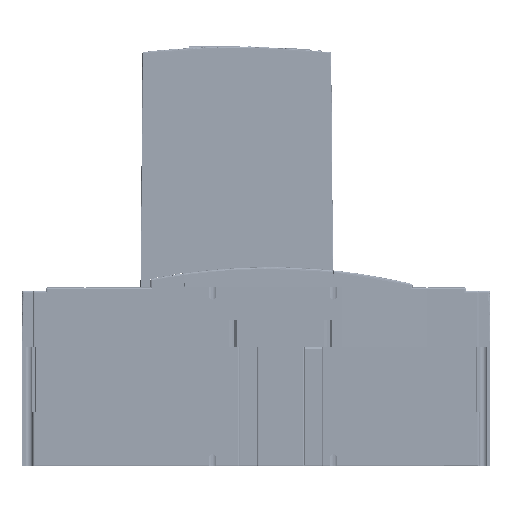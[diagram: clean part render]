
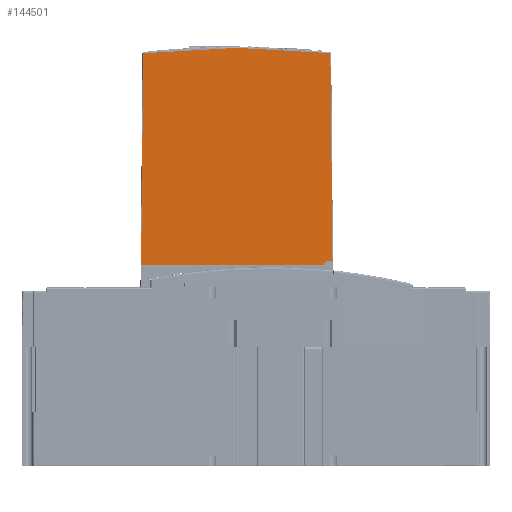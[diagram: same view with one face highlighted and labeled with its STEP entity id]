
A CAD part, left-side view. The second image highlights one B-rep face of the part: STEP entity #144501.
In plain terms, the highlighted planar face has unit normal (-1, 0, 0.009).
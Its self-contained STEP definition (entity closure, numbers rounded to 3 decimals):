
#107850 = CARTESIAN_POINT ( 'NONE',  ( -160.958, -74.545, 247.84 ) ) ;
#107897 = CARTESIAN_POINT ( 'NONE',  ( -160.931, -19.843, 250.92 ) ) ;
#107903 = CARTESIAN_POINT ( 'NONE',  ( -160.931, -38.125, 250.92 ) ) ;
#107909 = CARTESIAN_POINT ( 'NONE',  ( -160.94, -56.378, 249.892 ) ) ;
#107915 = CARTESIAN_POINT ( 'NONE',  ( -160.958, -74.545, 247.84 ) ) ;
#107959 =( BOUNDED_CURVE ( )  B_SPLINE_CURVE ( 3, ( #107915, #107909, #107903, #107897 ),
 .UNSPECIFIED., .F., .F. ) 
 B_SPLINE_CURVE_WITH_KNOTS ( ( 4, 4 ),
 ( 6.171, 6.283 ),
 .UNSPECIFIED. ) 
 CURVE ( )  GEOMETRIC_REPRESENTATION_ITEM ( )  RATIONAL_B_SPLINE_CURVE ( ( 1., 0.999, 0.999, 1. ) ) 
 REPRESENTATION_ITEM ( '' )  );
#108004 = CARTESIAN_POINT ( 'NONE',  ( -160.931, -19.843, 250.92 ) ) ;
#143001 = VERTEX_POINT ( 'NONE', #455351 ) ;
#143023 = EDGE_CURVE ( 'NONE', #143027, #143001, #455803, .T. ) ;
#143027 = VERTEX_POINT ( 'NONE', #455768 ) ;
#144501 = ADVANCED_FACE ( 'NONE', ( #467361 ), #467617, .T. ) ;
#144512 = EDGE_LOOP ( 'NONE', ( #144516, #144705, #144728, #144745, #144760, #144787 ) ) ;
#144516 = ORIENTED_EDGE ( 'NONE', *, *, #143023, .T. ) ;
#144705 = ORIENTED_EDGE ( 'NONE', *, *, #144709, .T. ) ;
#144709 = EDGE_CURVE ( 'NONE', #143001, #144716, #469373, .T. ) ;
#144716 = VERTEX_POINT ( 'NONE', #469377 ) ;
#144728 = ORIENTED_EDGE ( 'NONE', *, *, #144737, .T. ) ;
#144737 = EDGE_CURVE ( 'NONE', #144716, #598182, #469238, .T. ) ;
#144745 = ORIENTED_EDGE ( 'NONE', *, *, #598172, .T. ) ;
#144760 = ORIENTED_EDGE ( 'NONE', *, *, #144764, .T. ) ;
#144764 = EDGE_CURVE ( 'NONE', #598163, #144777, #469414, .T. ) ;
#144777 = VERTEX_POINT ( 'NONE', #469549 ) ;
#144787 = ORIENTED_EDGE ( 'NONE', *, *, #144789, .T. ) ;
#144789 = EDGE_CURVE ( 'NONE', #144777, #143027, #469799, .T. ) ;
#455351 = CARTESIAN_POINT ( 'NONE',  ( -162.046, -70.489, 123.146 ) ) ;
#455768 = CARTESIAN_POINT ( 'NONE',  ( -162.046, 36.647, 123.146 ) ) ;
#455793 = DIRECTION ( 'NONE',  ( 0., -1., 0. ) ) ;
#455795 = VECTOR ( 'NONE', #455793, 1000. ) ;
#455799 = CARTESIAN_POINT ( 'NONE',  ( -162.046, 36.947, 123.146 ) ) ;
#455803 = LINE ( 'NONE', #455799, #455795 ) ;
#467361 = FACE_OUTER_BOUND ( 'NONE', #144512, .T. ) ;
#467595 = DIRECTION ( 'NONE',  ( -0.009, 0., -1. ) ) ;
#467598 = DIRECTION ( 'NONE',  ( -1., 0., 0.009 ) ) ;
#467601 = CARTESIAN_POINT ( 'NONE',  ( -162.046, 36.947, 123.146 ) ) ;
#467603 = AXIS2_PLACEMENT_3D ( 'NONE', #467601, #467598, #467595 ) ;
#467617 = PLANE ( 'NONE',  #467603 ) ;
#469238 = B_SPLINE_CURVE_WITH_KNOTS ( 'NONE', 3,
 ( #469515, #469513, #469509, #469506 ),
 .UNSPECIFIED., .F., .F.,
 ( 4, 4 ),
 ( 0.403, 0.599 ),
 .UNSPECIFIED. ) ;
#469334 = CARTESIAN_POINT ( 'NONE',  ( -162.029, -75.816, 125.037 ) ) ;
#469338 = CARTESIAN_POINT ( 'NONE',  ( -162.017, -73.674, 126.499 ) ) ;
#469343 = CARTESIAN_POINT ( 'NONE',  ( -162.024, -71.23, 125.632 ) ) ;
#469349 = CARTESIAN_POINT ( 'NONE',  ( -162.046, -70.489, 123.146 ) ) ;
#469373 =( BOUNDED_CURVE ( )  B_SPLINE_CURVE ( 3, ( #469349, #469343, #469338, #469334 ),
 .UNSPECIFIED., .F., .F. ) 
 B_SPLINE_CURVE_WITH_KNOTS ( ( 4, 4 ),
 ( 5.002, 6.882 ),
 .UNSPECIFIED. ) 
 CURVE ( )  GEOMETRIC_REPRESENTATION_ITEM ( )  RATIONAL_B_SPLINE_CURVE ( ( 1., 0.727, 0.727, 1. ) ) 
 REPRESENTATION_ITEM ( '' )  );
#469377 = CARTESIAN_POINT ( 'NONE',  ( -162.029, -75.816, 125.037 ) ) ;
#469382 = CARTESIAN_POINT ( 'NONE',  ( -160.958, 35.36, 247.783 ) ) ;
#469384 = CARTESIAN_POINT ( 'NONE',  ( -160.94, 17.028, 249.873 ) ) ;
#469386 = CARTESIAN_POINT ( 'NONE',  ( -160.931, -1.393, 250.92 ) ) ;
#469389 = CARTESIAN_POINT ( 'NONE',  ( -160.931, -19.843, 250.92 ) ) ;
#469414 =( BOUNDED_CURVE ( )  B_SPLINE_CURVE ( 3, ( #469389, #469386, #469384, #469382 ),
 .UNSPECIFIED., .F., .T. ) 
 B_SPLINE_CURVE_WITH_KNOTS ( ( 4, 4 ),
 ( 0., 0.114 ),
 .UNSPECIFIED. ) 
 CURVE ( )  GEOMETRIC_REPRESENTATION_ITEM ( )  RATIONAL_B_SPLINE_CURVE ( ( 1., 0.999, 0.999, 1. ) ) 
 REPRESENTATION_ITEM ( '' )  );
#469506 = CARTESIAN_POINT ( 'NONE',  ( -160.958, -74.545, 247.84 ) ) ;
#469509 = CARTESIAN_POINT ( 'NONE',  ( -161.315, -74.903, 206.905 ) ) ;
#469513 = CARTESIAN_POINT ( 'NONE',  ( -161.672, -75.453, 165.972 ) ) ;
#469515 = CARTESIAN_POINT ( 'NONE',  ( -162.029, -75.816, 125.037 ) ) ;
#469549 = CARTESIAN_POINT ( 'NONE',  ( -160.958, 35.36, 247.783 ) ) ;
#469764 = CARTESIAN_POINT ( 'NONE',  ( -162.046, 36.647, 123.146 ) ) ;
#469768 = CARTESIAN_POINT ( 'NONE',  ( -161.683, 36.285, 164.692 ) ) ;
#469770 = CARTESIAN_POINT ( 'NONE',  ( -161.321, 35.723, 206.237 ) ) ;
#469774 = CARTESIAN_POINT ( 'NONE',  ( -160.958, 35.36, 247.783 ) ) ;
#469799 = B_SPLINE_CURVE_WITH_KNOTS ( 'NONE', 3,
 ( #469774, #469770, #469768, #469764 ),
 .UNSPECIFIED., .F., .F.,
 ( 4, 4 ),
 ( 0.401, 0.6 ),
 .UNSPECIFIED. ) ;
#598163 = VERTEX_POINT ( 'NONE', #108004 ) ;
#598172 = EDGE_CURVE ( 'NONE', #598182, #598163, #107959, .T. ) ;
#598182 = VERTEX_POINT ( 'NONE', #107850 ) ;
